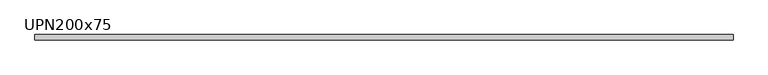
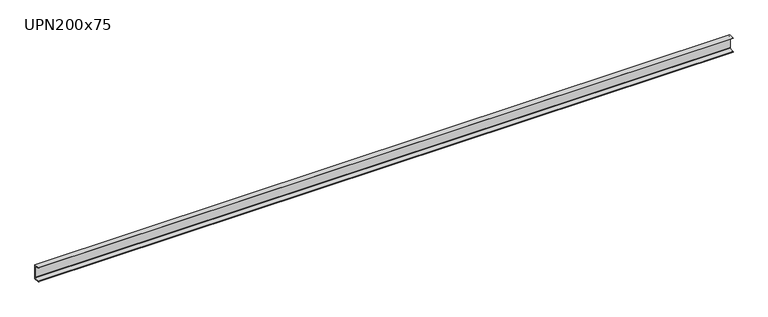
"""IFC4 building model written with IfcOpenShell, lengths in millimetres: beam geometry, M_MC Shapes : UPN200x75."""

from ifc_helpers import new_model, si_unit, point, frame, frame_2d, origin, place, context, project, spatial, polyline, circle_curve, trimmed, segment, composite_curve, outline, extrude, source, transform, mapped, element, save


def upn200x75_1e45fa6e(model_context):
    return source(origin(), model_context, "Body", "SweptSolid", [
        extrude(outline(composite_curve([segment(polyline([(10.9, 100.0), (10.9, -100.0), (-64.1, -100.0), (-64.1, -99.0253247)]), True, "CONTINUOUS"), segment(trimmed(circle_curve(frame_2d((-60.15, -99.0253247)), 3.95), [point((-64.1, -99.0253247))], [point((-60.7993773, -95.1290689))], False, "CARTESIAN"), True, "CONTINUOUS"), segment(polyline([(-60.7993773, -95.1290689), (-0.2512455, -85.0376935)]), True, "CONTINUOUS"), segment(trimmed(circle_curve(frame_2d((-1.55, -77.2451819)), 7.9), [point((-0.2512455, -85.0376935))], [point((6.35, -77.2451819))], True, "CARTESIAN"), True, "CONTINUOUS"), segment(polyline([(6.35, -77.2451819), (6.35, 77.2451819)]), True, "CONTINUOUS"), segment(trimmed(circle_curve(frame_2d((-1.55, 77.2451819)), 7.9), [point((6.35, 77.2451819))], [point((-0.2512455, 85.0376935))], True, "CARTESIAN"), True, "CONTINUOUS"), segment(polyline([(-0.2512455, 85.0376935), (-60.7993773, 95.1290689)]), True, "CONTINUOUS"), segment(trimmed(circle_curve(frame_2d((-60.15, 99.0253247)), 3.95), [point((-60.7993773, 95.1290689))], [point((-64.1, 99.0253247))], False, "CARTESIAN"), True, "CONTINUOUS"), segment(polyline([(-64.1, 99.0253247), (-64.1, 100.0), (10.9, 100.0)]), True, "CONTINUOUS")], self_intersect=False)), frame((-4749.35, 0.0, 0.0), z_axis=(1.0, 0.0, 0.0), x_axis=(0.0, 1.0, 0.0)), (0.0, 0.0, 1.0), 9387.2),
    ])


if __name__ == "__main__":
    model = new_model("IFC4")
    model_context = context("Model", 3, world=origin())
    ifc_project = project(units=[si_unit("LENGTHUNIT", "METRE", prefix="MILLI")], contexts=[model_context])
    site = spatial("IfcSite", under=ifc_project)
    building = spatial("IfcBuilding", under=site)
    placement = place(None, origin())
    upn200x75_shape = upn200x75_1e45fa6e(model_context)
    element("IfcBeam", 1, ObjectType="M_MC Shapes : UPN200x75", at=placement, inside=building, context=model_context, shape_type="MappedRepresentation", body=[
        mapped(upn200x75_shape, transform((0.0, 0.0, 0.0), x_axis=(1.0, 0.0, 0.0), y_axis=(0.0, 1.0, 0.0), z_axis=(0.0, 0.0, 1.0))),
    ])
    save(model, "model.ifc")
